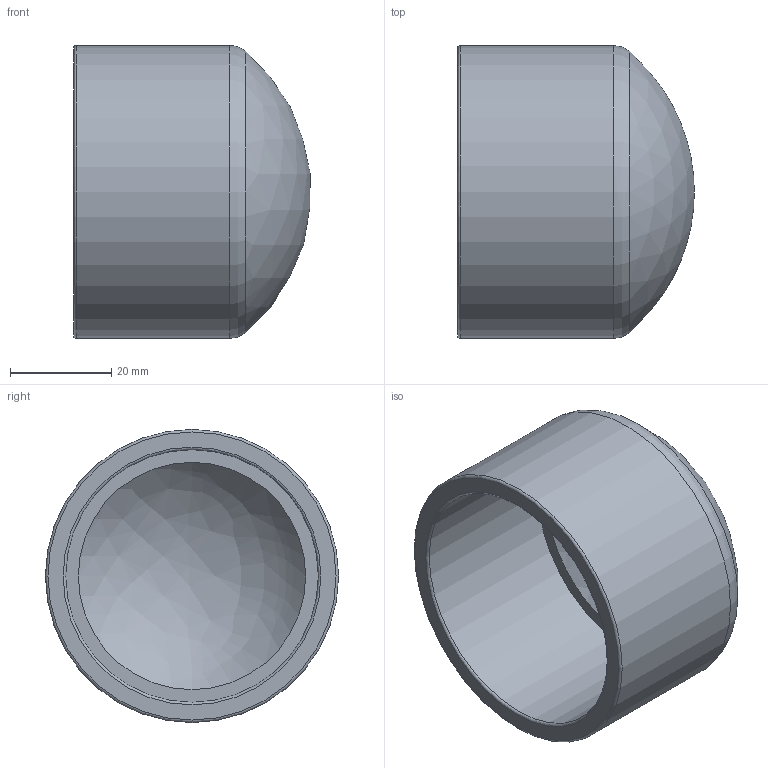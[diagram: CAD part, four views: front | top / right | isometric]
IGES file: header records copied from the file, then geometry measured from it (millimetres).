
Global section: file name: 050700050.ipt; native system: Autodesk Inventor 2015; preprocessor: unknown; author: KIM; date: 20171207.164806; units: millimetre
Bounding box: 46.83 x 58 x 58 mm (x, y, z)
Volume: 37248.2 mm3; surface area: 16955.7 mm2
Topology: 1 solids, 1 shells, 9 faces, 21 edges, 16 vertices
Faces by surface type: revolution 5, plane 2, cylinder 1, sphere 1
Full cylindrical faces by diameter (mm): 58 x1
